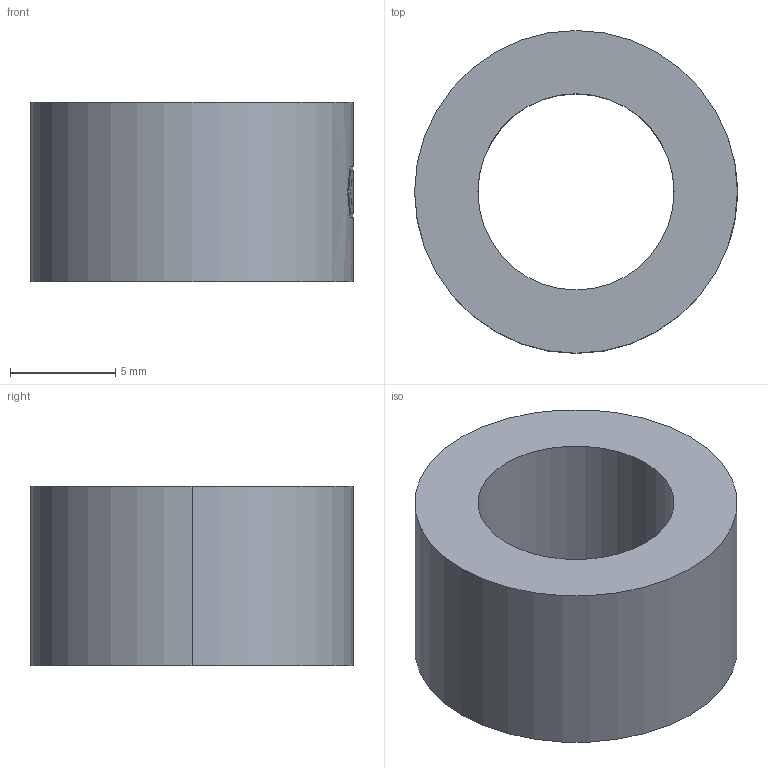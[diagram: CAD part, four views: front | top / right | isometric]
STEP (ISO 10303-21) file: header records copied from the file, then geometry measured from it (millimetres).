
FILE_DESCRIPTION (( 'STEP AP203' ), '1' );
FILE_NAME ('WJ-RD 13.STEP', '2007-02-21T10:58:16', ( ' ' ), ( '' ), 'SwSTEP 2.0', 'SolidWorks 2005278', '' );
FILE_SCHEMA (( 'CONFIG_CONTROL_DESIGN' ));
Length unit declared in the file: millimetre
Products named in the file (1): WJ-RD 13
Bounding box: 15.3 x 15.3 x 8.5 mm (x, y, z)
Volume: 985.2 mm3; surface area: 889.4 mm2
Topology: 1 solids, 1 shells, 43 faces, 117 edges, 78 vertices
Faces by surface type: plane 36, cylinder 7
Entity records: 1468 total; most frequent: CARTESIAN_POINT 299, ORIENTED_EDGE 234, DIRECTION 221, EDGE_CURVE 117, AXIS2_PLACEMENT_3D 80, VERTEX_POINT 78, VECTOR 61, LINE 61
